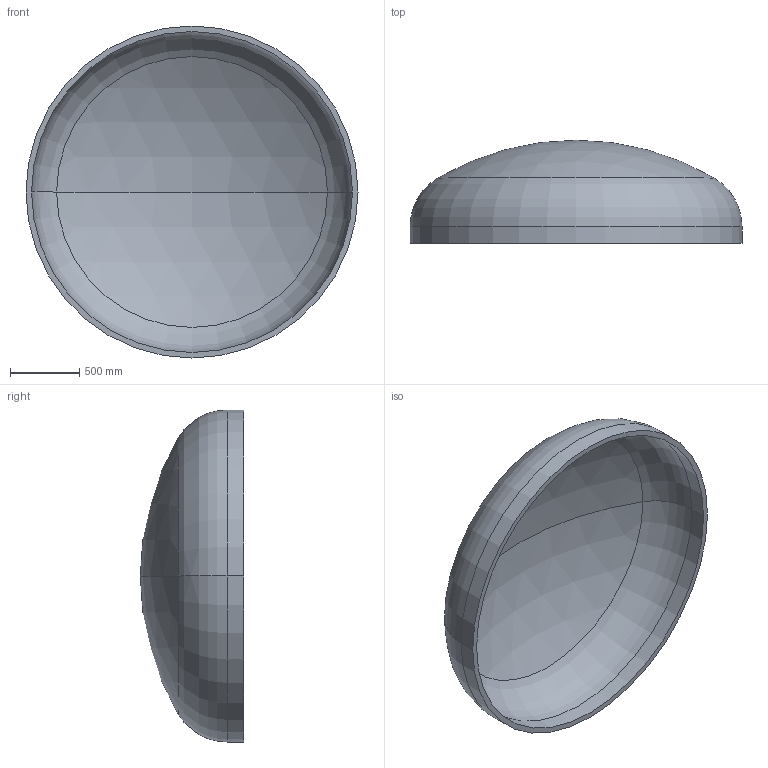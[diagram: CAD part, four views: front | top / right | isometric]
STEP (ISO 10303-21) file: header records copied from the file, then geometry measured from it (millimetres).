
FILE_DESCRIPTION (( 'STEP AP203' ), '1' );
FILE_NAME ('DIN 28013 Korbbogenform_-_Boden DIN 28013 - 2400 x 120 - I - s=40.step', '2016-07-01T15:21:08', ( '' ), ( '' ), 'SwSTEP 2.0', 'SolidWorks 2013', '' );
FILE_SCHEMA (( 'CONFIG_CONTROL_DESIGN' ));
Length unit declared in the file: millimetre
Products named in the file (1): DIN 28013 Korbbogenform_-_Boden DIN 28013 - 2400 x 120 - I - s=40
Bounding box: 2400 x 746.43 x 2400 mm (x, y, z)
Volume: 280810632.4 mm3; surface area: 14340444.3 mm2
Topology: 1 solids, 1 shells, 13 faces, 24 edges, 14 vertices
Faces by surface type: torus 4, cylinder 4, sphere 4, plane 1
Entity records: 407 total; most frequent: DIRECTION 72, CARTESIAN_POINT 52, ORIENTED_EDGE 48, AXIS2_PLACEMENT_3D 34, EDGE_CURVE 24, CIRCLE 20, VERTEX_POINT 14, EDGE_LOOP 14
